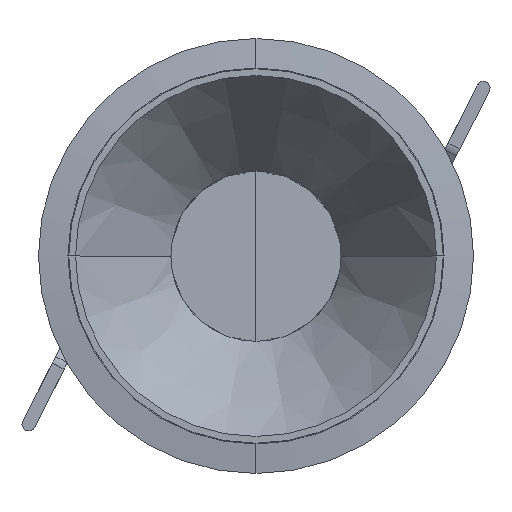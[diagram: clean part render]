
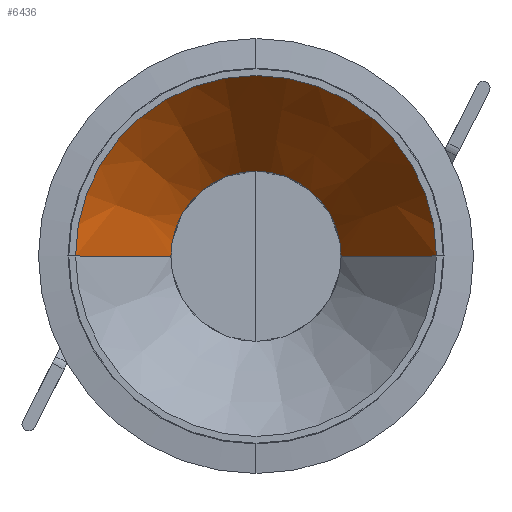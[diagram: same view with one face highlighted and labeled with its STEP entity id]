
A CAD part, top view. The second image highlights one B-rep face of the part: STEP entity #6436.
In plain terms, the highlighted conical face has half-angle 35.986 degrees and reference radius 24.286 mm.
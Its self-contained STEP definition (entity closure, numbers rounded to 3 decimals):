
#601=FACE_OUTER_BOUND('',#967,.T.);
#967=EDGE_LOOP('',(#4371,#4372,#4373,#4374));
#1349=LINE('',#9476,#1844);
#1350=LINE('',#9479,#1845);
#1844=VECTOR('',#7566,304.8);
#1845=VECTOR('',#7569,304.8);
#2340=CIRCLE('',#6824,47.697);
#2342=CIRCLE('',#6828,22.5);
#2664=VERTEX_POINT('',#9467);
#2665=VERTEX_POINT('',#9468);
#2666=VERTEX_POINT('',#9475);
#2667=VERTEX_POINT('',#9477);
#3325=EDGE_CURVE('',#2665,#2664,#2340,.T.);
#3326=EDGE_CURVE('',#2666,#2665,#1349,.T.);
#3328=EDGE_CURVE('',#2664,#2667,#1350,.T.);
#3329=EDGE_CURVE('',#2666,#2667,#2342,.T.);
#4371=ORIENTED_EDGE('',*,*,#3325,.T.);
#4372=ORIENTED_EDGE('',*,*,#3328,.T.);
#4373=ORIENTED_EDGE('',*,*,#3329,.F.);
#4374=ORIENTED_EDGE('',*,*,#3326,.T.);
#6394=CONICAL_SURFACE('',#6827,24.286,0.628);
#6436=ADVANCED_FACE('',(#601),#6394,.F.);
#6824=AXIS2_PLACEMENT_3D('',#9473,#7562,#7563);
#6827=AXIS2_PLACEMENT_3D('',#9480,#7570,#7571);
#6828=AXIS2_PLACEMENT_3D('',#9481,#7572,#7573);
#7562=DIRECTION('center_axis',(0.,0.,1.));
#7563=DIRECTION('ref_axis',(-0.809,0.588,0.));
#7566=DIRECTION('',(0.588,0.,0.809));
#7569=DIRECTION('',(0.588,0.,-0.809));
#7570=DIRECTION('center_axis',(0.,0.,
1.));
#7571=DIRECTION('ref_axis',(-0.809,0.588,0.));
#7572=DIRECTION('center_axis',(0.,0.,1.));
#7573=DIRECTION('ref_axis',(-1.,0.,0.));
#9467=CARTESIAN_POINT('',(77.303,-100.,2.3));
#9468=CARTESIAN_POINT('',(172.697,-100.,2.3));
#9473=CARTESIAN_POINT('Origin',(125.,-100.,2.3));
#9475=CARTESIAN_POINT('',(147.5,-100.,-32.399));
#9476=CARTESIAN_POINT('',(147.5,-100.,-32.399));
#9477=CARTESIAN_POINT('',(102.5,-100.,-32.399));
#9479=CARTESIAN_POINT('',(77.303,-100.,2.3));
#9480=CARTESIAN_POINT('Origin',(125.,-100.,-29.94));
#9481=CARTESIAN_POINT('Origin',(125.,-100.,-32.399));
